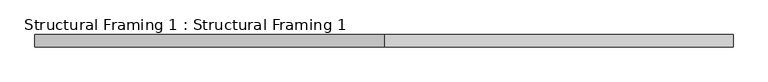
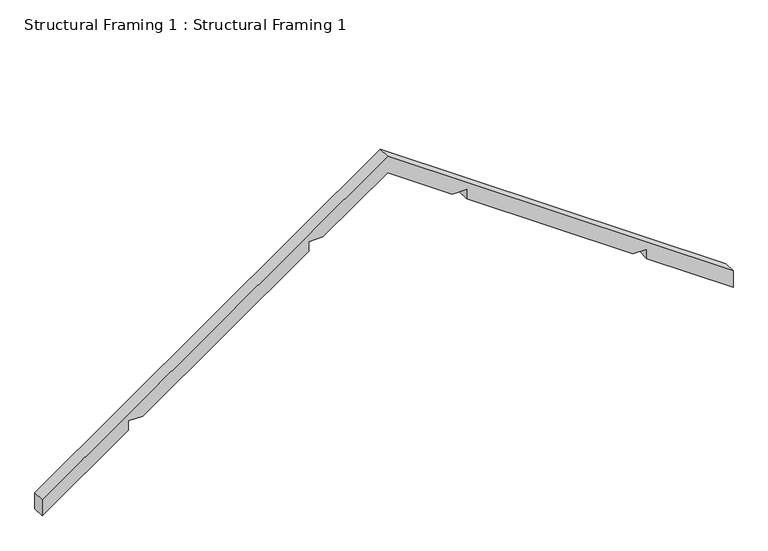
"""IFC4 building model written with IfcOpenShell, lengths in millimetres: beam geometry, Structural Framing 1 : Structural Framing 1."""

from ifc_helpers import new_model, si_unit, frame, origin, place, context, project, spatial, polyline, outline, extrude, source, transform, mapped, element, save


def structural_framing_1_structural_framing_1_4f4e03de(model_context):
    return source(origin(), model_context, "Body", "SweptSolid", [
        extrude(outline(polyline([(2800.0, 1206.7789073), (51.1319528, -2719.0115151), (-144.1919814, -2719.0115151), (542.0114061, -1739.0115151), (656.0155568, -1739.0115151), (656.0155568, -1576.1967145), (1975.9524969, 308.8685956), (2089.9566477, 308.8685956), (2089.9566477, 471.6833963), (2604.6760658, 1206.7789073), (2089.9566477, 1941.8744183), (2089.9566477, 2104.6892189), (1975.9524969, 2104.6892189), (656.0155568, 3989.754529), (656.0155568, 4152.5693297), (542.0114061, 4152.5693297), (-144.1919814, 5132.5693297), (51.1319528, 5132.5693297), (2800.0, 1206.7789073)])), frame((0.0, 3785.5508021, 0.0), z_axis=(0.0, 1.0, 0.0), x_axis=(0.0, 0.0, 1.0)), (0.0, 0.0, 1.0), 140.0),
    ])


if __name__ == "__main__":
    model = new_model("IFC4")
    model_context = context("Model", 3, world=origin())
    ifc_project = project(units=[si_unit("LENGTHUNIT", "METRE", prefix="MILLI")], contexts=[model_context])
    site = spatial("IfcSite", under=ifc_project)
    building = spatial("IfcBuilding", under=site)
    placement = place(None, origin())
    structural_framing_1_structural_framing_1_shape = structural_framing_1_structural_framing_1_4f4e03de(model_context)
    element("IfcBeam", 1, ObjectType="Structural Framing 1 : Structural Framing 1", at=placement, inside=building, context=model_context, shape_type="MappedRepresentation", body=[
        mapped(structural_framing_1_structural_framing_1_shape, transform((0.0, 0.0, 0.0), x_axis=(1.0, 0.0, 0.0), y_axis=(0.0, 1.0, 0.0), z_axis=(0.0, 0.0, 1.0))),
    ])
    save(model, "model.ifc")
